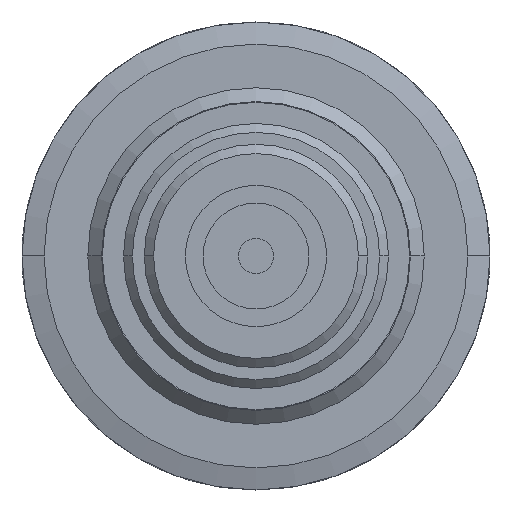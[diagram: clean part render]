
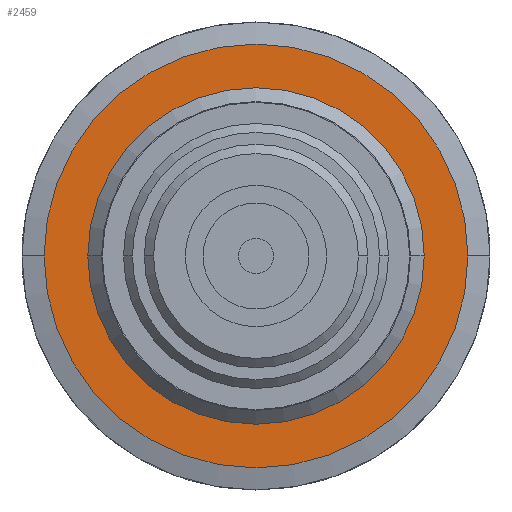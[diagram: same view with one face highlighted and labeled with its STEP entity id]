
A CAD part, front view. The second image highlights one B-rep face of the part: STEP entity #2459.
In plain terms, the highlighted planar face has unit normal (0, -1, 0).
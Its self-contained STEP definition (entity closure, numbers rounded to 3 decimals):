
#519=CARTESIAN_POINT('',(0.,27.5,0.));
#520=DIRECTION('',(0.,1.,0.));
#521=DIRECTION('',(-1.,0.,0.));
#522=AXIS2_PLACEMENT_3D('',#519,#520,#521);
#524=CARTESIAN_POINT('',(0.,27.5,0.));
#525=DIRECTION('',(0.,1.,0.));
#526=DIRECTION('',(1.,0.,0.));
#527=AXIS2_PLACEMENT_3D('',#524,#525,#526);
#529=CARTESIAN_POINT('',(0.,27.5,0.));
#530=DIRECTION('',(0.,-1.,0.));
#531=DIRECTION('',(-1.,0.,0.));
#532=AXIS2_PLACEMENT_3D('',#529,#530,#531);
#534=CARTESIAN_POINT('',(0.,27.5,0.));
#535=DIRECTION('',(0.,-1.,0.));
#536=DIRECTION('',(1.,0.,0.));
#537=AXIS2_PLACEMENT_3D('',#534,#535,#536);
#1576=CARTESIAN_POINT('',(8.8,27.5,0.));
#1577=VERTEX_POINT('',#1576);
#1578=CARTESIAN_POINT('',(-8.8,27.5,0.));
#1579=VERTEX_POINT('',#1578);
#1580=CARTESIAN_POINT('',(-12.,27.5,0.));
#1581=CARTESIAN_POINT('',(12.,27.5,0.));
#1582=VERTEX_POINT('',#1580);
#1583=VERTEX_POINT('',#1581);
#2444=CARTESIAN_POINT('',(0.,27.5,0.));
#2445=DIRECTION('',(0.,-1.,0.));
#2446=DIRECTION('',(-1.,0.,0.));
#2447=AXIS2_PLACEMENT_3D('',#2444,#2445,#2446);
#2448=PLANE('',#2447);
#2450=ORIENTED_EDGE('',*,*,#2449,.T.);
#2452=ORIENTED_EDGE('',*,*,#2451,.T.);
#2453=EDGE_LOOP('',(#2450,#2452));
#2454=FACE_OUTER_BOUND('',#2453,.F.);
#2455=ORIENTED_EDGE('',*,*,#2423,.T.);
#2456=ORIENTED_EDGE('',*,*,#2439,.T.);
#2457=EDGE_LOOP('',(#2455,#2456));
#2458=FACE_BOUND('',#2457,.F.);
#523=CIRCLE('',#522,12.);
#528=CIRCLE('',#527,12.);
#533=CIRCLE('',#532,8.8);
#538=CIRCLE('',#537,8.8);
#2423=EDGE_CURVE('',#1579,#1577,#533,.T.);
#2439=EDGE_CURVE('',#1577,#1579,#538,.T.);
#2449=EDGE_CURVE('',#1582,#1583,#523,.T.);
#2451=EDGE_CURVE('',#1583,#1582,#528,.T.);
#2459=ADVANCED_FACE('',(#2454,#2458),#2448,.T.);
